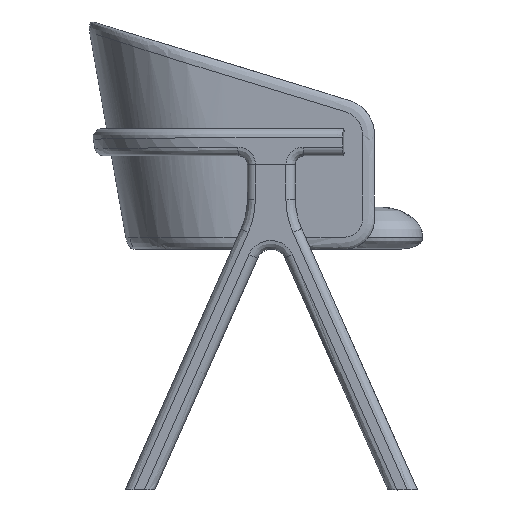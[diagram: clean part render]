
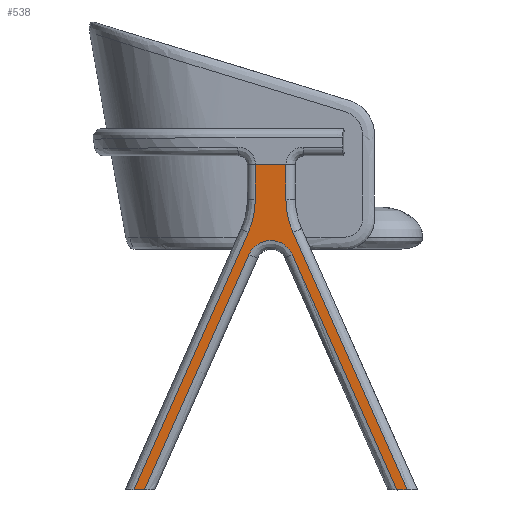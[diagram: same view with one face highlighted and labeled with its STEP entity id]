
A CAD part, front view. The second image highlights one B-rep face of the part: STEP entity #538.
In plain terms, the highlighted planar face has unit normal (-0.087, -0.996, 0).
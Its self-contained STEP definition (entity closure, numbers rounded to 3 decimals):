
#80=CARTESIAN_POINT('',(1361.397,835.3,-43.816));
#81=VERTEX_POINT('',#80);
#105=CARTESIAN_POINT('',(1343.949,836.827,-43.816));
#106=VERTEX_POINT('',#105);
#107=CARTESIAN_POINT('',(1361.397,835.3,-43.816));
#108=CARTESIAN_POINT('',(1352.673,836.063,-43.816));
#109=CARTESIAN_POINT('',(1343.949,836.827,-43.816));
#110=B_SPLINE_CURVE_WITH_KNOTS('',2,(#107,#108,#109),.UNSPECIFIED.,.F.,.U.,(3,3),(0.,17.514),.UNSPECIFIED.);
#111=EDGE_CURVE('',#81,#106,#110,.T.);
#246=CARTESIAN_POINT('',(925.151,873.467,-43.816));
#247=VERTEX_POINT('',#246);
#271=CARTESIAN_POINT('',(907.704,874.993,-43.816));
#272=VERTEX_POINT('',#271);
#273=CARTESIAN_POINT('',(925.151,873.467,-43.816));
#274=CARTESIAN_POINT('',(916.427,874.23,-43.816));
#275=CARTESIAN_POINT('',(907.704,874.993,-43.816));
#276=B_SPLINE_CURVE_WITH_KNOTS('',2,(#273,#274,#275),.UNSPECIFIED.,.F.,.U.,(3,3),(0.,17.514),.UNSPECIFIED.);
#277=EDGE_CURVE('',#247,#272,#276,.T.);
#379=CARTESIAN_POINT('',(1109.147,857.369,496.684));
#380=VERTEX_POINT('',#379);
#387=CARTESIAN_POINT('',(1159.953,852.924,496.684));
#388=VERTEX_POINT('',#387);
#389=CARTESIAN_POINT('',(1109.147,857.369,496.684));
#390=CARTESIAN_POINT('',(1134.55,855.147,496.684));
#391=CARTESIAN_POINT('',(1159.953,852.924,496.684));
#392=B_SPLINE_CURVE_WITH_KNOTS('',2,(#389,#390,#391),.UNSPECIFIED.,.F.,.U.,(3,3),(0.,51.),.UNSPECIFIED.);
#393=EDGE_CURVE('',#380,#388,#392,.T.);
#436=CARTESIAN_POINT('',(831.227,881.684,564.247));
#437=DIRECTION('',(0.008,-0.001,1.));
#438=DIRECTION('',(-0.087,-0.996,0.));
#439=AXIS2_PLACEMENT_3D('',#436,#438,#437);
#440=PLANE('',#439);
#441=CARTESIAN_POINT('',(1097.563,858.383,384.245));
#442=VERTEX_POINT('',#441);
#443=CARTESIAN_POINT('',(1097.563,858.383,384.245));
#444=DIRECTION('',(-0.405,0.035,-0.914));
#445=VECTOR('',#444,468.571);
#446=LINE('',#443,#445);
#447=EDGE_CURVE('',#442,#272,#446,.T.);
#448=ORIENTED_EDGE('E25',*,*,#447,.T.);
#449=ORIENTED_EDGE('E25',*,*,#277,.F.);
#450=CARTESIAN_POINT('',(1098.602,858.292,347.25));
#451=VERTEX_POINT('',#450);
#452=CARTESIAN_POINT('',(925.151,873.467,-43.816));
#453=DIRECTION('',(0.405,-0.035,0.914));
#454=VECTOR('',#453,428.075);
#455=LINE('',#452,#454);
#456=EDGE_CURVE('',#247,#451,#455,.T.);
#457=ORIENTED_EDGE('E26',*,*,#456,.T.);
#458=CARTESIAN_POINT('',(1170.498,852.002,347.25));
#459=VERTEX_POINT('',#458);
#460=CARTESIAN_POINT('',(1098.602,858.292,347.25));
#461=CARTESIAN_POINT('',(1100.395,858.135,351.299));
#462=CARTESIAN_POINT('',(1102.876,857.918,355.037));
#463=CARTESIAN_POINT('',(1105.901,857.653,358.263));
#464=CARTESIAN_POINT('',(1108.055,857.465,360.559));
#465=CARTESIAN_POINT('',(1110.484,857.252,362.594));
#466=CARTESIAN_POINT('',(1113.119,857.022,364.312));
#467=CARTESIAN_POINT('',(1115.754,856.791,366.03));
#468=CARTESIAN_POINT('',(1118.594,856.543,367.429));
#469=CARTESIAN_POINT('',(1121.56,856.283,368.47));
#470=CARTESIAN_POINT('',(1125.725,855.919,369.932));
#471=CARTESIAN_POINT('',(1130.137,855.533,370.687));
#472=CARTESIAN_POINT('',(1134.55,855.147,370.684));
#473=CARTESIAN_POINT('',(1138.963,854.761,370.687));
#474=CARTESIAN_POINT('',(1143.375,854.375,369.932));
#475=CARTESIAN_POINT('',(1147.541,854.01,368.47));
#476=CARTESIAN_POINT('',(1150.506,853.751,367.429));
#477=CARTESIAN_POINT('',(1153.347,853.502,366.03));
#478=CARTESIAN_POINT('',(1155.982,853.272,364.312));
#479=CARTESIAN_POINT('',(1158.616,853.041,362.594));
#480=CARTESIAN_POINT('',(1161.046,852.829,360.559));
#481=CARTESIAN_POINT('',(1163.199,852.64,358.263));
#482=CARTESIAN_POINT('',(1166.224,852.376,355.037));
#483=CARTESIAN_POINT('',(1168.705,852.158,351.299));
#484=CARTESIAN_POINT('',(1170.498,852.002,347.25));
#485=B_SPLINE_CURVE_WITH_KNOTS('',3,(#460,#461,#462,#463,#464,#465,#466,#467,#468,#469,#470,#471,#472,#473,#474,#475,#476,#477,#478,#479,#480,#481,#482,#483,#484),.UNSPECIFIED.,.F.,.U.,(4,3,3,3,3,3,3,3,4),(0.,13.289,22.75,32.211,45.5,58.79,68.251,77.712,91.001),.UNSPECIFIED.);
#486=EDGE_CURVE('',#451,#459,#485,.T.);
#487=ORIENTED_EDGE('E27',*,*,#486,.T.);
#488=CARTESIAN_POINT('',(1170.498,852.002,347.25));
#489=DIRECTION('',(0.405,-0.035,-0.914));
#490=VECTOR('',#489,428.075);
#491=LINE('',#488,#490);
#492=EDGE_CURVE('',#459,#106,#491,.T.);
#493=ORIENTED_EDGE('E28',*,*,#492,.T.);
#494=ORIENTED_EDGE('E28',*,*,#111,.F.);
#495=CARTESIAN_POINT('',(1171.537,851.911,384.245));
#496=VERTEX_POINT('',#495);
#497=CARTESIAN_POINT('',(1361.397,835.3,-43.816));
#498=DIRECTION('',(-0.405,0.035,0.914));
#499=VECTOR('',#498,468.571);
#500=LINE('',#497,#499);
#501=EDGE_CURVE('',#81,#496,#500,.T.);
#502=ORIENTED_EDGE('E29',*,*,#501,.T.);
#503=CARTESIAN_POINT('',(1159.953,852.924,438.951));
#504=VERTEX_POINT('',#503);
#505=CARTESIAN_POINT('',(1171.537,851.911,384.245));
#506=CARTESIAN_POINT('',(1167.731,852.244,392.823));
#507=CARTESIAN_POINT('',(1161.92,852.752,410.782));
#508=CARTESIAN_POINT('',(1159.952,852.924,429.561));
#509=CARTESIAN_POINT('',(1159.953,852.924,438.951));
#510=B_SPLINE_CURVE_WITH_KNOTS('',3,(#505,#506,#507,#508,#509),.UNSPECIFIED.,.F.,.U.,(4,1,4),(0.,28.17,56.339),.UNSPECIFIED.);
#511=EDGE_CURVE('',#496,#504,#510,.T.);
#512=ORIENTED_EDGE('E30',*,*,#511,.T.);
#513=CARTESIAN_POINT('',(1159.953,852.924,438.951));
#514=DIRECTION('',(0.,0.,1.));
#515=VECTOR('',#514,57.733);
#516=LINE('',#513,#515);
#517=EDGE_CURVE('',#504,#388,#516,.T.);
#518=ORIENTED_EDGE('E31',*,*,#517,.T.);
#519=ORIENTED_EDGE('E31',*,*,#393,.F.);
#520=CARTESIAN_POINT('',(1109.147,857.369,438.951));
#521=VERTEX_POINT('',#520);
#522=CARTESIAN_POINT('',(1109.147,857.369,496.684));
#523=DIRECTION('',(0.,0.,-1.));
#524=VECTOR('',#523,57.733);
#525=LINE('',#522,#524);
#526=EDGE_CURVE('',#380,#521,#525,.T.);
#527=ORIENTED_EDGE('E32',*,*,#526,.T.);
#528=CARTESIAN_POINT('',(1109.147,857.369,438.951));
#529=CARTESIAN_POINT('',(1109.148,857.369,429.561));
#530=CARTESIAN_POINT('',(1107.18,857.541,410.782));
#531=CARTESIAN_POINT('',(1101.369,858.05,392.823));
#532=CARTESIAN_POINT('',(1097.563,858.383,384.245));
#533=B_SPLINE_CURVE_WITH_KNOTS('',3,(#528,#529,#530,#531,#532),.UNSPECIFIED.,.F.,.U.,(4,1,4),(0.,28.17,56.339),.UNSPECIFIED.);
#534=EDGE_CURVE('',#521,#442,#533,.T.);
#535=ORIENTED_EDGE('E33',*,*,#534,.T.);
#536=EDGE_LOOP('',(#448,#449,#457,#487,#493,#494,#502,#512,#518,#519,#527,#535));
#537=FACE_OUTER_BOUND('',#536,.T.);
#538=ADVANCED_FACE('F4',(#537),#440,.T.);
